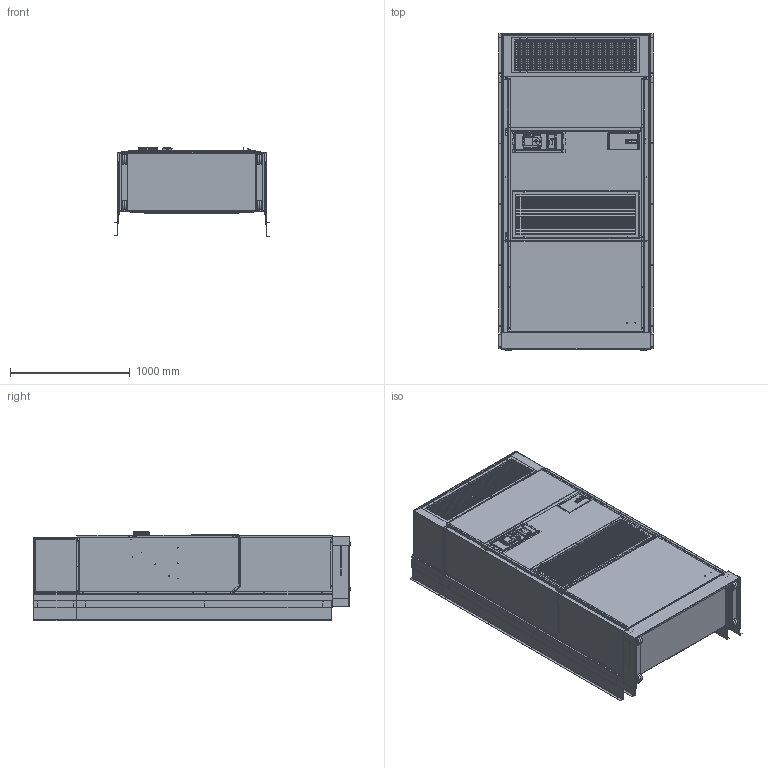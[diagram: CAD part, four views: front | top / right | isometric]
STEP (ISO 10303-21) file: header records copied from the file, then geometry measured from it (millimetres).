
FILE_DESCRIPTION (( 'STEP AP214' ), '1' );
FILE_NAME ('STEP_3400.STEP', '2020-01-29T12:44:48', ( '' ), ( '' ), 'SwSTEP 2.0', 'SolidWorks 2019', '' );
FILE_SCHEMA (( 'AUTOMOTIVE_DESIGN' ));
Length unit declared in the file: inch
Products named in the file (66): STEP_3400; 134-254; 134-259; 127-372; 120-439; 134-263; 1171-049, locking door latch_Latch Open; 108-230; QPB48; 1012-065, panhead screw; 140-280; 1913-031-4212; 134-256; 152-470; 1171-049c; 509-223; 8403-060_base only; 7051-039; 108-150; 100-361; 7051-039 frame; 106-278; 1171-049j; 7051-039 louver; 152-336; 1012-130; 1171-049g; 152-333; 110-138; 8403-056_subbase only; 1171-049a; 152-469; 134-260; 5400-005 female hinge; 1171-049i; 5400-005, male hinge; QSTX-X-8; 140-276; 1012-048; 1171-049h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
Assembly tree (108 placements, depth 4):
  STEP_3400
    126-379
    100-557
    100-573
    152-470
    553-469
      152-469
      5021-1436
      5400-005 female hinge  x2
      1012-048  x4
      1913-031-4212
    7051-039
      7051-039 frame
      7051-039 louver  x26
    152-333
    5400-005, male hinge  x2
    535-259
      134-258  x2
      134-259
      5021-0840
      1012-130  x2
      5021-1483  x2
    106-278
    108-230
    509-223
      108-223
    110-138  x2
    152-336
    120-439
    910-1752
      127-372
      8403-060_base only
        8403-060 back
        8403-060 front
      8403-056_subbase only
      1012-065, panhead screw  x4
    1171-049, locking door latch_Latch Open
      1171-049a
      1171-049b
      1171-049c
      1171-049d
      1171-049e
      1171-049f
      1171-049g
      1171-049h
      1171-049i
      1171-049j
    140-280  x2
    140-276  x2
    1171-035  x4
    QPB48
      114-125
      100-361
      100-362
      108-150
      7051-045
    QSTX-X-8
      134-260
      134-263
      134-254
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Bounding box: 1288.36 x 2640.28 x 745.54 mm (x, y, z)
Volume: 22898977.9 mm3; surface area: 32386336.7 mm2
Topology: 122 solids, 122 shells, 6458 faces, 16640 edges, 10472 vertices
Faces by surface type: plane 3963, cylinder 1630, cone 411, bspline 254, torus 176, sphere 24
Full cylindrical faces by diameter (mm): 0.87 x6, 0.964 x1, 1.58 x6, 1.588 x2, 2.388 x10, 3.175 x187, 3.279 x1, 3.327 x4, 3.715 x18, 3.81 x18, 3.962 x13, 3.969 x109, 4.762 x25, 4.763 x166, 4.775 x2, 4.902 x4, 5.08 x1, 6.35 x69, 6.528 x4, 7.937 x9, 7.938 x4, 9.296 x2, 9.5 x8, 9.652 x8, 12.7 x3, 13.97 x4, 14.243 x1, 19.05 x2, 22.225 x5, 28.575 x4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
Entity records: 196460 total; most frequent: CARTESIAN_POINT 43240, ORIENTED_EDGE 26890, DIRECTION 26787, EDGE_CURVE 13445, AXIS2_PLACEMENT_3D 8979, VERTEX_POINT 8969, LINE 8829, VECTOR 8829
